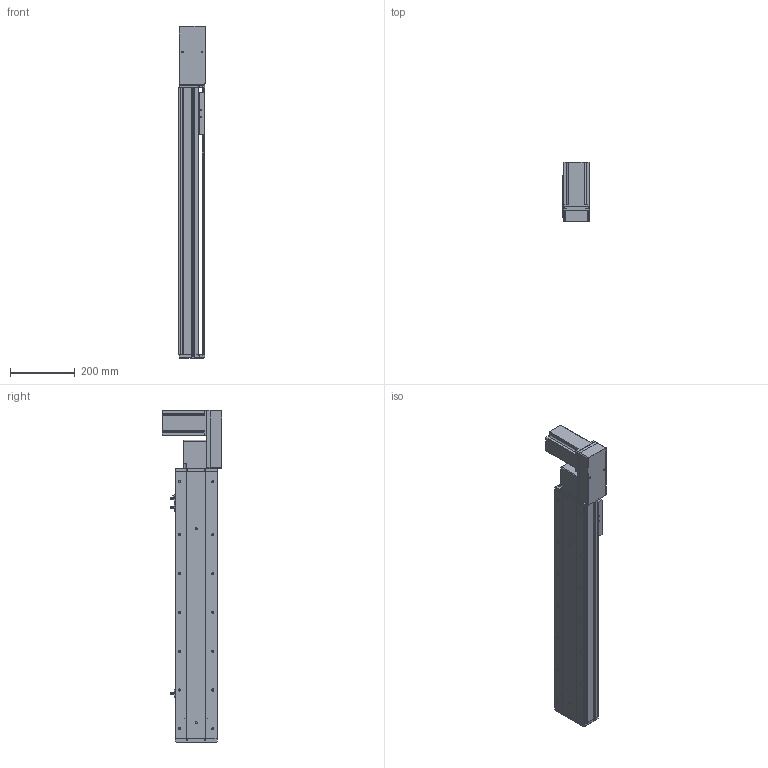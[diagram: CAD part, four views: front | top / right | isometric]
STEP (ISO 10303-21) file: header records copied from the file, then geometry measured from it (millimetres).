
FILE_DESCRIPTION (( 'STEP AP214' ), '1' );
FILE_NAME ('KSD130B-S600-MLB-CM.STEP', '2019-09-19T06:53:20', ( '微软用户' ), ( '微软中国' ), 'SwSTEP 2.0', 'SolidWorks 2014', '' );
FILE_SCHEMA (( 'AUTOMOTIVE_DESIGN' ));
Length unit declared in the file: millimetre
Products named in the file (12): 130宽盖板半封闭同步带-600行程; 130宽马达安装板同步带左-改; 130宽马达安装板同步带半封闭; 130宽同步带安装座半封闭; 130宽端盖同步带半封闭; 130宽底板半封闭同步带-600行程; KSD130B-S600-MLB-CM; 台达ECMA－C20807AS伺服电机; 130宽模组保护罩上下左右折-同步带; 130宽模组马达安装板连板左右折同步带; 覜茼え100遵圉猾敕; U倰嫖萇EEㄜSX672
Assembly tree (13 placements, depth 2):
  KSD130B-S600-MLB-CM
    130宽底板半封闭同步带-600行程
    130宽端盖同步带半封闭
    130宽同步带安装座半封闭
    130宽马达安装板同步带半封闭
    130宽马达安装板同步带左-改
    130宽盖板半封闭同步带-600行程
    U倰嫖萇EEㄜSX672  x3
    覜茼え100遵圉猾敕
    130宽模组马达安装板连板左右折同步带
    130宽模组保护罩上下左右折-同步带
    台达ECMA－C20807AS伺服电机
Bounding box: 82.5 x 184.8 x 1027 mm (x, y, z)
Volume: 3910237.2 mm3; surface area: 1030351.5 mm2
Topology: 14 solids, 14 shells, 1427 faces, 4021 edges, 2581 vertices
Faces by surface type: cylinder 670, plane 610, cone 147
Entity records: 45799 total; most frequent: CARTESIAN_POINT 8238, DIRECTION 7019, ORIENTED_EDGE 6734, EDGE_CURVE 3367, AXIS2_PLACEMENT_3D 2542, VERTEX_POINT 2205, VECTOR 1935, LINE 1935
